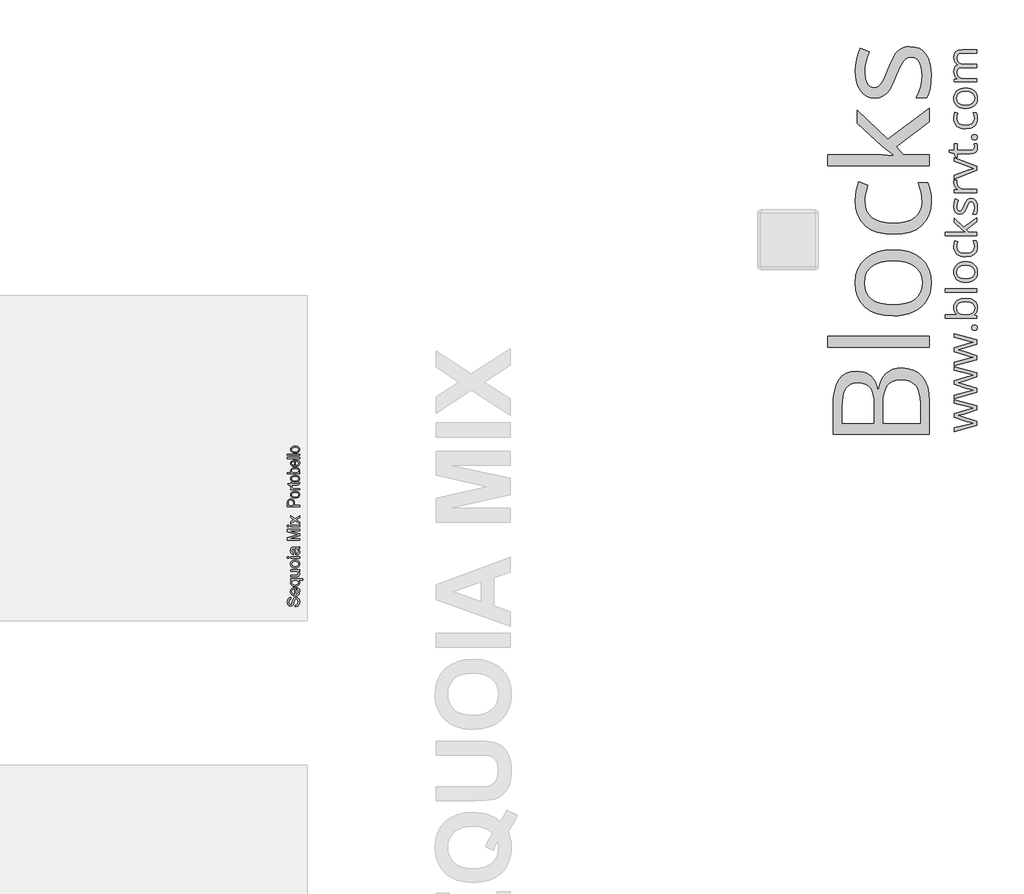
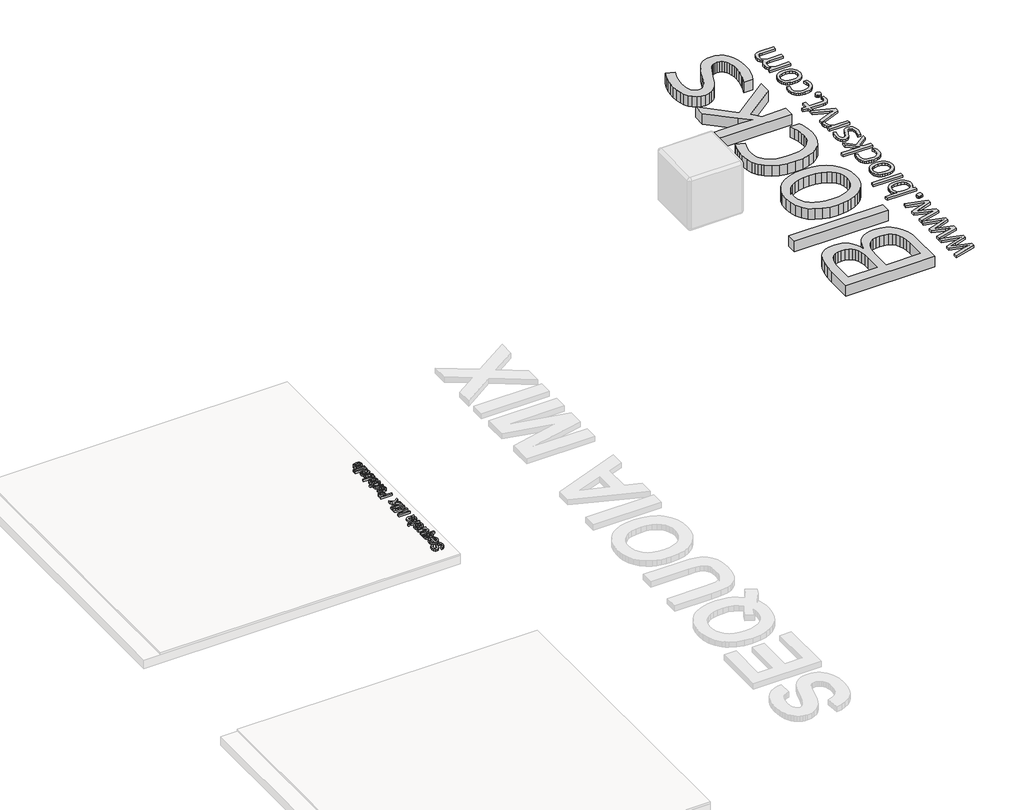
# One storey, part 10 of 10: 4 proxies.
"""IFC4 building model written with IfcOpenShell, lengths in millimetres."""

from ifc_helpers import new_model, si_unit, frame, origin, origin_with_axes, place, context, project, spatial, polyline, outline, extrude, element, save

model = new_model("IFC4")

# Units and contexts
model_context = context("Model", 3, world=origin())
ifc_project = project(units=[si_unit("LENGTHUNIT", "METRE", prefix="MILLI")], contexts=[model_context])

# Site, building, storey
site = spatial("IfcSite", under=ifc_project)
building = spatial("IfcBuilding", under=site)
storey = spatial("IfcBuildingStorey", under=building, Name="PORTOBELLO - SHOWROOM", Elevation=0.0)

# Proxies
placement = place(None, origin())
element("IfcBuildingElementProxy", 1, Name="10mm Arial", ObjectType="10mm Arial", at=placement, inside=storey, context=model_context, shape_type="SweptSolid", body=[
    extrude(outline(polyline([(154143.8720418, 14390.544295), (154143.8720418, 14403.1013338), (154156.4413433, 14407.1480357), (154164.3875944, 14417.0317986), (154167.4164895, 14432.090435), (154165.1233584, 14445.2115595), (154158.8203135, 14453.6851081), (154150.3958158, 14456.4687485), (154142.5599293, 14454.3840839), (154136.8577584, 14445.8492216), (154132.0630297, 14427.5654864), (154125.8703495, 14407.8837997), (154116.5261468, 14397.2029591), (154104.0426844, 14393.6835547), (154089.8301767, 14398.036825), (154079.799261, 14410.7532793), (154076.3779584, 14429.3681082), (154079.9586765, 14449.233736), (154090.4801016, 14462.4774878), (154106.2009255, 14467.4561574), (154106.2009255, 14454.8991187), (154098.7083955, 14452.5937248), (154093.3005302, 14447.7867334), (154088.9349972, 14429.8586175), (154093.2514793, 14411.8814507), (154103.6748024, 14406.2405935), (154112.381343, 14410.2382445), (154119.3956264, 14430.7415343), (154125.6986712, 14452.9616068), (154135.8767398, 14465.1139754), (154150.0769848, 14469.0257873), (154165.0988329, 14464.5253642), (154176.0617164, 14451.575918), (154179.9735282, 14432.5809443), (154175.755148, 14410.1524053), (154163.0509565, 14395.9644231), (154143.8720418, 14390.544295)])), frame((0.0, 0.0, 17.0), z_axis=(0.0, 0.0, 1.0), x_axis=(1.0, 0.0, 0.0)), (0.0, 0.0, 1.0), 20.0),
    extrude(outline(polyline([(154156.4290806, 14537.9423477), (154157.9987104, 14550.2541318), (154167.275468, 14545.8180881), (154174.2100437, 14538.7394254), (154178.5326571, 14529.1775592), (154179.9735282, 14517.2919051), (154177.4872591, 14502.5582312), (154170.0284516, 14491.2213343), (154158.0814839, 14483.9924531), (154142.1307337, 14481.5828261), (154125.6434889, 14484.0169786), (154113.3133107, 14491.3194362), (154105.624577, 14502.5030489), (154103.0616658, 14516.5806665), (154105.6184457, 14530.2198915), (154113.2887853, 14541.1183956), (154125.594438, 14548.2645034), (154142.0571573, 14550.6465393), (154145.4416716, 14550.5729629), (154145.4416716, 14494.1398648), (154154.8410566, 14496.3134343), (154161.7511068, 14501.3626147), (154166.0001438, 14508.6497439), (154167.4164895, 14517.5371597), (154164.7922646, 14529.8489438), (154156.4290806, 14537.9423477)]), holes=[polyline([(154132.8846329, 14494.1398648), (154132.8846329, 14538.0895005), (154121.5048165, 14533.0617799), (154117.0902325, 14525.7409282), (154115.6187046, 14516.5316156), (154120.3153314, 14501.0683091), (154125.8059701, 14496.2030697), (154132.8846329, 14494.1398648)])]), frame((0.0, 0.0, 17.0), z_axis=(0.0, 0.0, 1.0), x_axis=(1.0, 0.0, 0.0)), (0.0, 0.0, 1.0), 20.0),
    extrude(outline(polyline([(154206.6572356, 14608.7228436), (154168.3484572, 14608.7228436), (154176.6625903, 14600.752067), (154179.9735282, 14589.86276), (154177.3585004, 14577.9249892), (154169.5134169, 14567.7653148), (154157.1127279, 14560.8123451), (154140.830884, 14558.4946885), (154120.9407308, 14562.1735085), (154107.5988771, 14572.8420863), (154103.0616658, 14588.1705028), (154106.5810702, 14599.8446248), (154117.1392835, 14608.7228436), (154104.6312956, 14608.7228436), (154104.6312956, 14621.2798824), (154206.6572356, 14621.2798824), (154206.6572356, 14608.7228436)]), holes=[polyline([(154141.517597, 14571.0517273), (154152.8483625, 14572.4650073), (154160.9417664, 14576.7048473), (154165.7978087, 14582.9189873), (154167.4164895, 14590.2551674), (154165.8775165, 14597.2847792), (154161.2605974, 14603.2659273), (154153.4982873, 14607.3586145), (154142.5231411, 14608.7228436), (154130.7907712, 14607.2850381), (154122.3754705, 14602.9716217), (154117.3078961, 14596.7206935), (154115.6187046, 14589.4703525), (154117.1914001, 14582.3549016), (154121.9094867, 14576.4105417), (154129.9569053, 14572.3914309), (154141.517597, 14571.0517273)])]), frame((0.0, 0.0, 17.0), z_axis=(0.0, 0.0, 1.0), x_axis=(1.0, 0.0, 0.0)), (0.0, 0.0, 1.0), 20.0),
    extrude(outline(polyline([(154178.4038984, 14687.2043359), (154165.7242323, 14687.2043359), (154176.4112043, 14677.3696239), (154179.9735282, 14664.542805), (154177.4719307, 14652.733793), (154171.1934113, 14644.5913381), (154161.9473105, 14640.8512045), (154150.2731885, 14640.1154405), (154104.6312956, 14640.1154405), (154104.6312956, 14652.6724793), (154144.3625511, 14652.6724793), (154157.1648445, 14653.4327687), (154164.6819, 14658.3991757), (154167.4164895, 14667.7556411), (154164.6205863, 14678.240278), (154157.005429, 14685.1687222), (154143.0136505, 14687.2043359), (154104.6312956, 14687.2043359), (154104.6312956, 14699.7613747), (154178.4038984, 14699.7613747), (154178.4038984, 14687.2043359)])), frame((0.0, 0.0, 17.0), z_axis=(0.0, 0.0, 1.0), x_axis=(1.0, 0.0, 0.0)), (0.0, 0.0, 1.0), 20.0),
    extrude(outline(polyline([(154141.517597, 14713.8880433), (154123.7305026, 14716.6042387), (154111.2286461, 14724.7528249), (154105.1034109, 14734.8205288), (154103.0616658, 14746.8747955), (154105.5479349, 14760.0664307), (154113.0067424, 14770.6031842), (154124.849477, 14777.5101687), (154140.4875274, 14779.8124968), (154162.8302273, 14775.7412694), (154175.4731052, 14763.8832064), (154179.9735282, 14746.8747955), (154177.4964561, 14733.5237448), (154170.0652398, 14722.999254), (154157.9741849, 14716.165846), (154141.517597, 14713.8880433)]), holes=[polyline([(154141.4930716, 14726.4450821), (154152.8575595, 14727.8982159), (154160.9540291, 14732.2576176), (154165.8008744, 14738.8181798), (154167.4164895, 14746.8747955), (154165.7916773, 14754.894623), (154160.9172409, 14761.4429225), (154152.7134724, 14765.8023242), (154141.1006641, 14767.2554581), (154130.0672699, 14765.7931271), (154122.0811649, 14761.4061343), (154117.2343197, 14754.8486378), (154115.6187046, 14746.8747955), (154117.2281883, 14738.8181798), (154122.0566395, 14732.2576176), (154130.134715, 14727.8982159), (154141.4930716, 14726.4450821)])]), frame((0.0, 0.0, 17.0), z_axis=(0.0, 0.0, 1.0), x_axis=(1.0, 0.0, 0.0)), (0.0, 0.0, 1.0), 20.0),
    extrude(outline(polyline([(154090.504627, 14793.9391654), (154077.9475883, 14793.9391654), (154077.9475883, 14806.4962042), (154090.504627, 14806.4962042), (154090.504627, 14793.9391654)])), frame((0.0, 0.0, 17.0), z_axis=(0.0, 0.0, 1.0), x_axis=(1.0, 0.0, 0.0)), (0.0, 0.0, 1.0), 20.0),
    extrude(outline(polyline([(154178.4038984, 14793.9391654), (154104.6312956, 14793.9391654), (154104.6312956, 14806.4962042), (154178.4038984, 14806.4962042), (154178.4038984, 14793.9391654)])), frame((0.0, 0.0, 17.0), z_axis=(0.0, 0.0, 1.0), x_axis=(1.0, 0.0, 0.0)), (0.0, 0.0, 1.0), 20.0),
    extrude(outline(polyline([(154168.9861193, 14872.4206577), (154177.4964561, 14860.2437637), (154179.9735282, 14846.7915454), (154178.4836062, 14836.2977115), (154174.0138399, 14828.5568612), (154167.2264171, 14823.7835923), (154158.7835253, 14822.1925027), (154148.8507115, 14824.5959984), (154141.6402244, 14830.911306), (154137.519946, 14839.7036856), (154135.6314851, 14850.5684672), (154131.315003, 14872.3470813), (154128.5190999, 14872.4206577), (154119.2484736, 14868.962567), (154115.6187046, 14855.081153), (154118.034463, 14842.3769615), (154126.6061135, 14836.3191713), (154125.0364836, 14823.7621325), (154112.7737505, 14829.1945233), (154105.5877888, 14840.1328813), (154103.0616658, 14856.6998338), (154105.2934832, 14871.9178857), (154110.8975523, 14880.5140616), (154119.4201518, 14884.3645598), (154130.4075608, 14884.9776965), (154146.0302828, 14884.9776965), (154167.8456851, 14885.6153586), (154178.4038984, 14888.1169562), (154178.4038984, 14875.5599174), (154168.9861193, 14872.4206577)]), holes=[polyline([(154143.8720418, 14872.4206577), (154147.72254, 14852.1626225), (154149.7581537, 14841.3591546), (154153.0690917, 14836.4663241), (154157.9006085, 14834.7495414), (154164.6941627, 14838.4896751), (154167.4164895, 14849.4648212), (154164.4121199, 14862.1690128), (154157.1403191, 14870.3605186), (154147.4282344, 14872.3470813), (154143.8720418, 14872.4206577)])]), frame((0.0, 0.0, 17.0), z_axis=(0.0, 0.0, 1.0), x_axis=(1.0, 0.0, 0.0)), (0.0, 0.0, 1.0), 20.0),
    extrude(outline(polyline([(154178.4038984, 14943.0540008), (154077.9475883, 14943.0540008), (154077.9475883, 14964.6609367), (154148.7526096, 14985.2132775), (154163.5414658, 14989.3580813), (154147.5263363, 14993.8462416), (154077.9475883, 15014.0552259), (154077.9475883, 15035.6621617), (154178.4038984, 15035.6621617), (154178.4038984, 15023.105123), (154090.504627, 15023.105123), (154178.4038984, 14997.8684181), (154178.4038984, 14980.8477445), (154090.504627, 14955.6110396), (154178.4038984, 14955.6110396), (154178.4038984, 14943.0540008)])), frame((0.0, 0.0, 17.0), z_axis=(0.0, 0.0, 1.0), x_axis=(1.0, 0.0, 0.0)), (0.0, 0.0, 1.0), 20.0),
    extrude(outline(polyline([(154090.504627, 15056.0673497), (154077.9475883, 15056.0673497), (154077.9475883, 15068.6243885), (154090.504627, 15068.6243885), (154090.504627, 15056.0673497)])), frame((0.0, 0.0, 17.0), z_axis=(0.0, 0.0, 1.0), x_axis=(1.0, 0.0, 0.0)), (0.0, 0.0, 1.0), 20.0),
    extrude(outline(polyline([(154178.4038984, 15056.0673497), (154104.6312956, 15056.0673497), (154104.6312956, 15068.6243885), (154178.4038984, 15068.6243885), (154178.4038984, 15056.0673497)])), frame((0.0, 0.0, 17.0), z_axis=(0.0, 0.0, 1.0), x_axis=(1.0, 0.0, 0.0)), (0.0, 0.0, 1.0), 20.0),
    extrude(outline(polyline([(154178.4038984, 15079.6117974), (154141.3213933, 15106.4426576), (154104.6312956, 15081.1814273), (154104.6312956, 15096.2891145), (154122.2896314, 15108.4782713), (154130.62829, 15114.1681795), (154123.8102103, 15119.0977982), (154104.6312956, 15132.9792122), (154104.6312956, 15148.0868995), (154141.3213933, 15121.5503449), (154178.4038984, 15147.1058808), (154178.4038984, 15131.9981935), (154156.1102495, 15116.6207261), (154152.0390221, 15113.8002975), (154178.4038984, 15094.7194847), (154178.4038984, 15079.6117974)])), frame((0.0, 0.0, 17.0), z_axis=(0.0, 0.0, 1.0), x_axis=(1.0, 0.0, 0.0)), (0.0, 0.0, 1.0), 20.0),
])
element("IfcBuildingElementProxy", 2, Name="10mm Arial Narrow", ObjectType="10mm Arial Narrow", at=placement, inside=storey, context=model_context, shape_type="SweptSolid", body=[
    extrude(outline(polyline([(154178.4038984, 15222.5670842), (154077.6852946, 15222.5670842), (154077.6852946, 15253.8639688), (154079.5636154, 15270.1596704), (154089.0440586, 15281.6326565), (154106.0631674, 15285.9223349), (154118.1389929, 15284.1360265), (154127.7653867, 15278.7771013), (154134.0666451, 15269.0333125), (154136.1670646, 15254.0924133), (154136.1670646, 15232.3140458), (154178.4038984, 15232.3140458), (154178.4038984, 15222.5670842)]), holes=[polyline([(154124.7956093, 15232.3140458), (154124.7956093, 15255.2854007), (154120.2647951, 15271.1495961), (154106.5962043, 15276.1753733), (154096.4304279, 15273.7005588), (154090.6304781, 15267.7229299), (154089.0567499, 15255.0569563), (154089.0567499, 15232.3140458), (154124.7956093, 15232.3140458)])]), frame((0.0, 0.0, 17.0), z_axis=(0.0, 0.0, 1.0), x_axis=(1.0, 0.0, 0.0)), (0.0, 0.0, 1.0), 20.0),
    extrude(outline(polyline([(154141.8527922, 15294.0448029), (154125.2620167, 15295.9992718), (154113.3099318, 15301.8626784), (154106.0853773, 15310.7212452), (154103.6771924, 15321.6611943), (154106.0853773, 15332.4742299), (154113.3099318, 15341.3581793), (154125.0716463, 15347.2977341), (154141.0913108, 15349.2775857), (154158.2531974, 15347.3326353), (154170.3956526, 15341.4977842), (154177.6202071, 15332.648736), (154180.028392, 15321.6611943), (154177.6138615, 15310.8005661), (154170.3702699, 15301.9261352), (154158.4118394, 15296.015136), (154141.8527922, 15294.0448029)]), holes=[polyline([(154141.8274095, 15303.7917646), (154154.3791609, 15305.0958015), (154163.250419, 15309.007912), (154168.5236775, 15314.8491088), (154170.2814304, 15321.9404041), (154168.5078133, 15328.6604773), (154163.1869622, 15334.3525506), (154154.2998399, 15338.2361057), (154141.8274095, 15339.530624), (154129.3137322, 15338.2265871), (154120.4551654, 15334.3144766), (154115.1819069, 15328.4732798), (154113.424154, 15321.3819845), (154115.1914254, 15314.6143187), (154120.4932395, 15308.9317639), (154129.3613247, 15305.0767644), (154141.8274095, 15303.7917646)])]), frame((0.0, 0.0, 17.0), z_axis=(0.0, 0.0, 1.0), x_axis=(1.0, 0.0, 0.0)), (0.0, 0.0, 1.0), 20.0),
    extrude(outline(polyline([(154170.2814304, 15420.7553044), (154180.028392, 15422.3797981), (154180.028392, 15415.0188114), (154177.9089355, 15406.7440471), (154172.1089857, 15402.4289859), (154157.4631605, 15401.2613811), (154115.0486477, 15401.2613811), (154115.0486477, 15393.1389131), (154111.7996604, 15393.1389131), (154116.6731413, 15391.5144195), (154115.0486477, 15383.9503711), (154117.3711659, 15377.8712114), (154123.8564489, 15374.0003478), (154139.2637555, 15372.0204962), (154178.4038984, 15372.0204962), (154178.4038984, 15362.2735345), (154105.301686, 15362.2735345), (154105.301686, 15372.0204962), (154114.9978822, 15372.0204962), (154105.9108711, 15378.2646435), (154103.6771924, 15384.6610871), (154105.301686, 15393.1389131), (154105.301686, 15401.2613811), (154089.0567499, 15401.2613811), (154080.9342819, 15411.0083428), (154105.301686, 15411.0083428), (154105.301686, 15420.7553044), (154115.0486477, 15420.7553044), (154115.0486477, 15411.0083428), (154159.6968392, 15411.0083428), (154167.6923937, 15411.871355), (154170.2814304, 15416.4910087), (154170.2814304, 15420.7553044)])), frame((0.0, 0.0, 17.0), z_axis=(0.0, 0.0, 1.0), x_axis=(1.0, 0.0, 0.0)), (0.0, 0.0, 1.0), 20.0),
    extrude(outline(polyline([(154141.8527922, 15427.2532789), (154125.2620167, 15429.2077478), (154113.3099318, 15435.0711544), (154106.0853773, 15443.9297211), (154103.6771924, 15454.8696702), (154106.0853773, 15465.6827058), (154113.3099318, 15474.5666552), (154125.0716463, 15480.50621), (154141.0913108, 15482.4860616), (154158.2531974, 15480.5411112), (154170.3956526, 15474.7062602), (154177.6202071, 15465.857212), (154180.028392, 15454.8696702), (154177.6138615, 15444.0090421), (154170.3702699, 15435.1346112), (154158.4118394, 15429.2236119), (154141.8527922, 15427.2532789)]), holes=[polyline([(154141.8274095, 15437.0002405), (154154.3791609, 15438.3042774), (154163.250419, 15442.216388), (154168.5236775, 15448.0575847), (154170.2814304, 15455.1488801), (154168.5078133, 15461.8689532), (154163.1869622, 15467.5610266), (154154.2998399, 15471.4445816), (154141.8274095, 15472.7390999), (154129.3137322, 15471.4350631), (154120.4551654, 15467.5229525), (154115.1819069, 15461.6817557), (154113.424154, 15454.5904604), (154115.1914254, 15447.8227946), (154120.4932395, 15442.1402398), (154129.3613247, 15438.2852404), (154141.8274095, 15437.0002405)])]), frame((0.0, 0.0, 17.0), z_axis=(0.0, 0.0, 1.0), x_axis=(1.0, 0.0, 0.0)), (0.0, 0.0, 1.0), 20.0),
    extrude(outline(polyline([(154178.4038984, 15505.2289721), (154178.4038984, 15495.4820105), (154077.6852946, 15495.4820105), (154077.6852946, 15505.2289721), (154113.0941788, 15505.2289721), (154106.012402, 15512.6280328), (154103.6771924, 15521.8292662), (154107.8780313, 15534.7109928), (154120.6074617, 15543.9883743), (154141.2943725, 15547.4658059), (154157.748716, 15545.5335469), (154169.9514551, 15539.7367699), (154177.5091578, 15531.3636476), (154180.028392, 15521.7023526), (154177.4139726, 15512.3615144), (154169.6468625, 15505.2289721), (154178.4038984, 15505.2289721)]), holes=[polyline([(154141.2943725, 15505.2289721), (154158.5419258, 15507.3103545), (154167.2735789, 15513.1991439), (154170.2814304, 15521.6515872), (154168.4919491, 15527.5943148), (154163.1235054, 15532.8326721), (154141.7004959, 15537.7188443), (154120.2647951, 15533.0103511), (154115.1343143, 15527.7656481), (154113.424154, 15521.4485255), (154115.2136353, 15515.4708967), (154120.582079, 15510.1786011), (154141.2943725, 15505.2289721)])]), frame((0.0, 0.0, 17.0), z_axis=(0.0, 0.0, 1.0), x_axis=(1.0, 0.0, 0.0)), (0.0, 0.0, 1.0), 20.0),
    extrude(outline(polyline([(154155.6609879, 15599.4496014), (154157.2854815, 15609.1965631), (154167.1720481, 15605.4970327), (154174.291899, 15599.6780458), (154178.5942687, 15591.9743926), (154180.028392, 15582.6208629), (154177.6138615, 15571.0273089), (154170.3702699, 15561.8831867), (154158.5641356, 15555.943632), (154142.4619773, 15553.9637804), (154125.7950536, 15555.9531505), (154113.6145244, 15561.9212608), (154106.1615254, 15570.9352966), (154103.6771924, 15582.0624433), (154106.0758587, 15592.7453924), (154113.2718578, 15601.4929098), (154125.0113624, 15607.3277609), (154141.0405454, 15609.2727112), (154144.2895326, 15609.1965631), (154144.2895326, 15563.710742), (154163.7326905, 15569.7137536), (154168.6442454, 15575.6437898), (154170.2814304, 15582.7477765), (154166.6263197, 15592.9262443), (154155.6609879, 15599.4496014)]), holes=[polyline([(154134.542571, 15564.3706926), (154134.542571, 15599.4496014), (154120.2774865, 15595.1853057), (154115.1374871, 15589.3599732), (154113.424154, 15582.1385914), (154119.1352644, 15569.9295066), (154134.542571, 15564.3706926)])]), frame((0.0, 0.0, 17.0), z_axis=(0.0, 0.0, 1.0), x_axis=(1.0, 0.0, 0.0)), (0.0, 0.0, 1.0), 20.0),
    extrude(outline(polyline([(154178.4038984, 15622.192512), (154077.6852946, 15622.192512), (154077.6852946, 15631.9394736), (154178.4038984, 15631.9394736), (154178.4038984, 15622.192512)])), frame((0.0, 0.0, 17.0), z_axis=(0.0, 0.0, 1.0), x_axis=(1.0, 0.0, 0.0)), (0.0, 0.0, 1.0), 20.0),
    extrude(outline(polyline([(154178.4038984, 15648.1844097), (154077.6852946, 15648.1844097), (154077.6852946, 15657.9313713), (154178.4038984, 15657.9313713), (154178.4038984, 15648.1844097)])), frame((0.0, 0.0, 17.0), z_axis=(0.0, 0.0, 1.0), x_axis=(1.0, 0.0, 0.0)), (0.0, 0.0, 1.0), 20.0),
    extrude(outline(polyline([(154141.8527922, 15669.3028266), (154125.2620167, 15671.2572955), (154113.3099318, 15677.1207021), (154106.0853773, 15685.9792688), (154103.6771924, 15696.919218), (154106.0853773, 15707.7322535), (154113.3099318, 15716.616203), (154125.0716463, 15722.5557577), (154141.0913108, 15724.5356093), (154158.2531974, 15722.590659), (154170.3956526, 15716.7558079), (154177.6202072, 15707.9067597), (154180.028392, 15696.919218), (154177.6138615, 15686.0585898), (154170.3702699, 15677.1841589), (154158.4118394, 15671.2731597), (154141.8527922, 15669.3028266)]), holes=[polyline([(154141.8274095, 15679.0497883), (154154.3791609, 15680.3538251), (154163.250419, 15684.2659357), (154168.5236775, 15690.1071325), (154170.2814304, 15697.1984278), (154168.5078133, 15703.918501), (154163.1869622, 15709.6105743), (154154.2998399, 15713.4941293), (154141.8274095, 15714.7886477), (154129.3137322, 15713.4846108), (154120.4551654, 15709.5725002), (154115.1819069, 15703.7313035), (154113.424154, 15696.6400081), (154115.1914254, 15689.8723424), (154120.4932395, 15684.1897876), (154129.3613247, 15680.3347881), (154141.8274095, 15679.0497883)])]), frame((0.0, 0.0, 17.0), z_axis=(0.0, 0.0, 1.0), x_axis=(1.0, 0.0, 0.0)), (0.0, 0.0, 1.0), 20.0),
])
element("IfcBuildingElementProxy", 3, Name="25mm OpenSans", ObjectType="25mm OpenSans", at=placement, inside=storey, context=model_context, shape_type="SweptSolid", body=[
    extrude(outline(polyline([(159806.5607559, 16026.4236266), (159696.7491126, 15991.9435202), (159651.0254932, 15979.7255694), (159697.1238964, 15966.3083106), (159806.5607559, 15930.7788096), (159806.5607559, 15897.872795), (159619.4687001, 15846.5274191), (159619.4687001, 15876.3602069), (159726.8067706, 15904.0942055), (159776.5030979, 15915.0378915), (159751.3176289, 15922.45861), (159726.8067706, 15929.8043718), (159619.4687001, 15964.2844783), (159619.4687001, 15995.1666606), (159726.8817274, 16028.8222427), (159776.2032709, 16041.8647178), (159757.2392124, 16046.961777), (159619.4687001, 16082.7161482), (159619.4687001, 16112.249109), (159806.5607559, 16060.2291223), (159806.5607559, 16026.4236266)])), origin_with_axes(), (0.0, 0.0, 1.0), 20.0),
    extrude(outline(polyline([(159806.5607559, 16299.8658621), (159696.7491126, 16265.3857556), (159651.0254932, 16253.1678049), (159697.1238964, 16239.750546), (159806.5607559, 16204.2210451), (159806.5607559, 16171.3150304), (159619.4687001, 16119.9696545), (159619.4687001, 16149.8024423), (159726.8067706, 16177.5364409), (159776.5030979, 16188.4801269), (159751.3176289, 16195.9008455), (159726.8067706, 16203.2466073), (159619.4687001, 16237.7267137), (159619.4687001, 16268.608896), (159726.8817274, 16302.2644782), (159776.2032709, 16315.3069532), (159757.2392124, 16320.4040124), (159619.4687001, 16356.1583837), (159619.4687001, 16385.6913444), (159806.5607559, 16333.6713577), (159806.5607559, 16299.8658621)])), origin_with_axes(), (0.0, 0.0, 1.0), 20.0),
    extrude(outline(polyline([(159806.5607559, 16573.3080975), (159696.7491126, 16538.827991), (159651.0254932, 16526.6100403), (159697.1238964, 16513.1927815), (159806.5607559, 16477.6632805), (159806.5607559, 16444.7572659), (159619.4687001, 16393.41189), (159619.4687001, 16423.2446777), (159726.8067706, 16450.9786764), (159776.5030979, 16461.9223623), (159751.3176289, 16469.3430809), (159726.8067706, 16476.6888427), (159619.4687001, 16511.1689491), (159619.4687001, 16542.0511314), (159726.8817274, 16575.7067136), (159776.2032709, 16588.7491886), (159757.2392124, 16593.8462478), (159619.4687001, 16629.6006191), (159619.4687001, 16659.1335798), (159806.5607559, 16607.1135931), (159806.5607559, 16573.3080975)])), origin_with_axes(), (0.0, 0.0, 1.0), 20.0),
    extrude(outline(polyline([(159787.4467839, 16688.2917568), (159777.0371648, 16689.5941304), (159769.4946415, 16693.5012511), (159764.91291, 16699.8444664), (159763.3856661, 16708.4551234), (159764.91291, 16717.3187594), (159769.4946415, 16723.9711713), (159777.0371648, 16728.1312711), (159787.4467839, 16729.517971), (159797.6502719, 16728.1031623), (159805.174056, 16723.8587361), (159809.8120051, 16717.1782155), (159811.3579881, 16708.4551234), (159805.77371, 16694.0259484), (159798.3998394, 16689.7253047), (159787.4467839, 16688.2917568)])), origin_with_axes(), (0.0, 0.0, 1.0), 20.0),
    extrude(outline(polyline([(159614.6714679, 16876.6580774), (159616.2713261, 16894.2424632), (159621.0709007, 16909.7421143), (159629.0701917, 16923.1570307), (159640.2691991, 16934.4872124), (159654.3915199, 16943.48905), (159671.160751, 16949.918934), (159712.6399443, 16955.0628412), (159754.2596814, 16949.872086), (159771.1483749, 16943.3836421), (159785.4229515, 16934.2998206), (159796.7695301, 16922.9157637), (159804.874229, 16909.5266136), (159809.7370483, 16894.1323705), (159811.3579881, 16876.7330342), (159809.6433524, 16859.0900884), (159804.4994452, 16843.0399736), (159795.7950923, 16829.0324304), (159783.3991192, 16817.5171992), (159783.3991192, 16815.4184101), (159806.5607559, 16809.4218698), (159806.5607559, 16789.1085897), (159542.7129849, 16789.1085897), (159542.7129849, 16817.4422424), (159605.3018738, 16817.4422424), (159643.0800774, 16816.0930209), (159630.6513107, 16828.648277), (159621.7736203, 16842.2529277), (159616.447006, 16858.2561945), (159614.6714679, 16876.6580774)]), holes=[polyline([(159638.6576289, 16872.6853695), (159642.8926855, 16847.4155741), (159655.5978551, 16830.3722823), (159678.3284905, 16820.6747524), (159712.6399443, 16817.4422424), (159747.0919419, 16820.7684483), (159770.0942955, 16830.7470661), (159783.0524442, 16848.0527065), (159787.3718271, 16873.3599803), (159782.527747, 16896.4372906), (159767.9955064, 16912.749754), (159744.3934988, 16922.447284), (159712.3401172, 16925.6797939), (159679.8932127, 16922.447284), (159656.9095983, 16912.749754), (159643.2206213, 16896.2686379), (159638.6576289, 16872.6853695)])]), origin_with_axes(), (0.0, 0.0, 1.0), 20.0),
    extrude(outline(polyline([(159806.5607559, 17032.3432537), (159806.5607559, 17004.009601), (159542.7129849, 17004.009601), (159542.7129849, 17032.3432537), (159806.5607559, 17032.3432537)])), origin_with_axes(), (0.0, 0.0, 1.0), 20.0),
    extrude(outline(polyline([(159712.8648145, 17257.2884698), (159734.7920072, 17255.8478947), (159754.1753551, 17251.5261694), (159771.0148582, 17244.3232939), (159785.3105164, 17234.2392682), (159796.7062853, 17221.6207673), (159804.8461202, 17206.8144662), (159809.7300211, 17189.8203648), (159811.3579881, 17170.6384632), (159808.3690876, 17146.9427596), (159799.402386, 17126.0766734), (159784.8514063, 17108.8459898), (159765.1096714, 17096.0564938), (159740.879901, 17088.1298172), (159712.8648145, 17085.4875916), (159690.9469914, 17086.9164547), (159671.5917523, 17091.203044), (159654.7990972, 17098.3473596), (159640.5690261, 17108.3494013), (159629.2388444, 17120.8906031), (159621.1458575, 17135.6523987), (159616.2900653, 17152.634788), (159614.6714679, 17171.8377712), (159616.3275437, 17190.4340732), (159621.295771, 17207.0205972), (159629.5761498, 17221.5973433), (159641.1686801, 17234.1643115), (159655.5861431, 17244.2811307), (159672.3413199, 17251.5074302), (159691.4342103, 17255.8432099), (159712.8648145, 17257.2884698)]), holes=[polyline([(159712.6399443, 17114.9455956), (159744.7963914, 17118.5247806), (159768.2578551, 17129.2623355), (159782.5933341, 17146.93339), (159787.3718271, 17171.313074), (159782.6120733, 17195.7114971), (159768.3328118, 17213.4387692), (159744.8900873, 17224.2325417), (159712.6399443, 17227.8304658), (159680.717737, 17224.2325417), (159657.5092523, 17213.4387692), (159643.3705348, 17195.6178012), (159638.6576289, 17170.9382902), (159643.3049476, 17146.6054542), (159657.2469037, 17129.0749436), (159680.3898012, 17118.4779326), (159712.6399443, 17114.9455956)])]), origin_with_axes(), (0.0, 0.0, 1.0), 20.0),
    extrude(outline(polyline([(159811.3579881, 17382.6911178), (159809.7721843, 17363.3475907), (159805.0147729, 17346.3183533), (159797.0857539, 17331.6034057), (159785.9851272, 17319.2027479), (159771.9846112, 17309.364674), (159755.3559239, 17302.3374784), (159714.2140361, 17296.7157219), (159691.7668309, 17298.1422427), (159672.0227537, 17302.4218048), (159654.9818043, 17309.5544083), (159640.6439829, 17319.5400533), (159629.2810076, 17332.163239), (159621.1645967, 17347.2084648), (159616.2947501, 17364.6757307), (159614.6714679, 17384.5650366), (159617.4448678, 17411.8118164), (159623.9661053, 17433.1370126), (159647.427569, 17424.3670725), (159641.1686801, 17403.6415303), (159638.6576289, 17383.8154691), (159643.3471108, 17358.5972065), (159657.4155564, 17340.5841617), (159680.8629657, 17329.7763349), (159713.6893388, 17326.1737259), (159745.1524359, 17329.6873237), (159768.3328118, 17340.2281171), (159782.6120733, 17357.6649318), (159787.3718271, 17381.8665935), (159784.8420367, 17405.8340153), (159777.2526655, 17430.3636128), (159801.9134372, 17430.3636128), (159808.9968504, 17408.9634598), (159811.3579881, 17382.6911178)])), origin_with_axes(), (0.0, 0.0, 1.0), 20.0),
    extrude(outline(polyline([(159712.714901, 17501.947312), (159684.8309888, 17524.8091217), (159619.4687001, 17584.7745242), (159619.4687001, 17618.1302794), (159699.2226854, 17542.8736992), (159806.5607559, 17623.3772521), (159806.5607559, 17589.2719294), (159720.2105763, 17523.6847704), (159738.2001971, 17502.6968796), (159806.5607559, 17502.6968796), (159806.5607559, 17474.6630539), (159542.7129849, 17474.6630539), (159542.7129849, 17502.6968796), (159683.7066375, 17502.6968796), (159712.714901, 17501.947312)])), origin_with_axes(), (0.0, 0.0, 1.0), 20.0),
    extrude(outline(polyline([(159756.1148611, 17783.6347903), (159779.6044336, 17778.7344925), (159797.0037699, 17764.0335993), (159807.7694336, 17740.4878093), (159811.3579881, 17709.0528209), (159808.3971964, 17675.7532833), (159799.5148211, 17650.6615102), (159772.9801305, 17650.6615102), (159783.5115543, 17679.8196872), (159787.3718271, 17709.8023885), (159785.5916042, 17729.6190801), (159780.2509356, 17744.2450165), (159771.2561252, 17753.2679357), (159758.5134772, 17756.2755754), (159748.2256628, 17753.8863289), (159739.5494186, 17746.7185894), (159720.9601439, 17709.5025614), (159703.7200906, 17672.0991416), (159687.0422131, 17655.5711776), (159664.6676223, 17650.136813), (159643.94208, 17654.82161), (159628.0887267, 17668.8760012), (159618.0257826, 17691.1006785), (159614.6714679, 17720.2963339), (159617.7821732, 17750.3352527), (159627.1142889, 17779.7370391), (159650.2759257, 17769.5429207), (159641.5622031, 17742.4835328), (159638.6576289, 17718.122588), (159640.2598295, 17700.30162), (159645.0664313, 17687.465276), (159652.7026505, 17679.7072521), (159662.7937034, 17677.1212441), (159675.7987001, 17680.9815169), (159685.9928185, 17693.4618163), (159700.0472097, 17726.5177444), (159712.3775956, 17754.598418), (159724.7829383, 17771.8291017), (159738.8373295, 17780.6833681), (159756.1148611, 17783.6347903)])), origin_with_axes(), (0.0, 0.0, 1.0), 20.0),
    extrude(outline(polyline([(159614.6714679, 17916.0833731), (159616.5453867, 17938.7203125), (159641.2061585, 17934.7476046), (159638.6576289, 17914.0595407), (159643.3517956, 17892.7249749), (159657.4342956, 17874.7447237), (159678.525252, 17862.5174034), (159704.2447879, 17858.4416299), (159806.5607559, 17858.4416299), (159806.5607559, 17830.1079772), (159619.4687001, 17830.1079772), (159619.4687001, 17853.4944842), (159653.0493255, 17856.7176246), (159636.7274925, 17869.7038821), (159624.6407161, 17883.4771855), (159617.16378, 17899.0494509), (159614.6714679, 17916.0833731)])), origin_with_axes(), (0.0, 0.0, 1.0), 20.0),
    extrude(outline(polyline([(159806.5607559, 18015.700898), (159619.4687001, 17943.742415), (159619.4687001, 17974.5496405), (159730.4046947, 18015.401071), (159780.9255464, 18031.5917296), (159743.4471698, 18045.0089885), (159619.4687001, 18090.4327809), (159619.4687001, 18121.2400064), (159806.5607559, 18049.2815234), (159806.5607559, 18015.700898)])), origin_with_axes(), (0.0, 0.0, 1.0), 20.0),
    extrude(outline(polyline([(159787.3718271, 18212.6122885), (159786.2474758, 18227.3038121), (159783.9238165, 18238.547325), (159806.1110154, 18238.547325), (159809.8588531, 18224.8302392), (159811.3579881, 18208.5646238), (159807.7975424, 18184.5597236), (159797.116205, 18167.4133663), (159779.3139762, 18157.125552), (159754.3908558, 18153.6962805), (159643.4548611, 18153.6962805), (159643.4548611, 18126.5619359), (159629.4379483, 18126.5619359), (159617.2949543, 18153.546367), (159576.2936103, 18165.6144042), (159576.2936103, 18182.1048899), (159619.4687001, 18182.1048899), (159619.4687001, 18237.1981035), (159643.4548611, 18237.1981035), (159643.4548611, 18182.1048899), (159752.6668504, 18182.1048899), (159767.498918, 18184.1380919), (159778.4144951, 18190.2376976), (159785.1324941, 18199.8977492), (159787.3718271, 18212.6122885)])), origin_with_axes(), (0.0, 0.0, 1.0), 20.0),
    extrude(outline(polyline([(159787.4467839, 18271.3783829), (159777.0371648, 18272.6807565), (159769.4946415, 18276.5878773), (159764.91291, 18282.9310925), (159763.3856661, 18291.5417495), (159764.91291, 18300.4053856), (159769.4946415, 18307.0577974), (159777.0371648, 18311.2178972), (159787.4467839, 18312.6045971), (159797.6502719, 18311.1897884), (159805.174056, 18306.9453623), (159809.8120051, 18300.2648416), (159811.3579881, 18291.5417495), (159805.77371, 18277.1125745), (159798.3998394, 18272.8119308), (159787.4467839, 18271.3783829)])), origin_with_axes(), (0.0, 0.0, 1.0), 20.0),
    extrude(outline(polyline([(159811.3579881, 18447.6766663), (159809.7721843, 18428.3331392), (159805.0147729, 18411.3039018), (159797.0857539, 18396.5889542), (159785.9851272, 18384.1882964), (159771.9846112, 18374.3502225), (159755.3559239, 18367.3230269), (159714.2140361, 18361.7012704), (159691.7668309, 18363.1277911), (159672.0227537, 18367.4073533), (159654.9818043, 18374.5399568), (159640.6439829, 18384.5256018), (159629.2810076, 18397.1487875), (159621.1645967, 18412.1940133), (159616.2947501, 18429.6612791), (159614.6714679, 18449.5505851), (159617.4448678, 18476.7973649), (159623.9661053, 18498.1225611), (159647.427569, 18489.352621), (159641.1686801, 18468.6270788), (159638.6576289, 18448.8010176), (159643.3471108, 18423.5827549), (159657.4155564, 18405.5697102), (159680.8629657, 18394.7618834), (159713.6893388, 18391.1592744), (159745.1524359, 18394.6728722), (159768.3328118, 18405.2136656), (159782.6120733, 18422.6504803), (159787.3718271, 18446.852142), (159784.8420367, 18470.8195638), (159777.2526655, 18495.3491613), (159801.9134372, 18495.3491613), (159808.9968504, 18473.9490082), (159811.3579881, 18447.6766663)])), origin_with_axes(), (0.0, 0.0, 1.0), 20.0),
    extrude(outline(polyline([(159712.8648145, 18701.2553621), (159734.7920072, 18699.814787), (159754.1753551, 18695.4930617), (159771.0148582, 18688.2901862), (159785.3105164, 18678.2061605), (159796.7062853, 18665.5876596), (159804.8461202, 18650.7813585), (159809.7300211, 18633.7872571), (159811.3579881, 18614.6053555), (159808.3690876, 18590.9096519), (159799.402386, 18570.0435658), (159784.8514063, 18552.8128821), (159765.1096714, 18540.0233861), (159740.879901, 18532.0967095), (159712.8648145, 18529.4544839), (159690.9469914, 18530.883347), (159671.5917523, 18535.1699364), (159654.7990972, 18542.3142519), (159640.5690261, 18552.3162936), (159629.2388444, 18564.8574954), (159621.1458575, 18579.619291), (159616.2900653, 18596.6016804), (159614.6714679, 18615.8046635), (159616.3275437, 18634.4009655), (159621.295771, 18650.9874895), (159629.5761498, 18665.5642356), (159641.1686801, 18678.1312038), (159655.5861431, 18688.2480231), (159672.3413199, 18695.4743225), (159691.4342103, 18699.8101022), (159712.8648145, 18701.2553621)]), holes=[polyline([(159712.6399443, 18558.9124879), (159744.7963914, 18562.4916729), (159768.2578551, 18573.2292278), (159782.5933341, 18590.9002823), (159787.3718271, 18615.2799663), (159782.6120733, 18639.6783894), (159768.3328118, 18657.4056615), (159744.8900873, 18668.199434), (159712.6399443, 18671.7973581), (159680.717737, 18668.199434), (159657.5092523, 18657.4056615), (159643.3705348, 18639.5846935), (159638.6576289, 18614.9051825), (159643.3049476, 18590.5723465), (159657.2469037, 18573.0418359), (159680.3898012, 18562.4448249), (159712.6399443, 18558.9124879)])]), origin_with_axes(), (0.0, 0.0, 1.0), 20.0),
    extrude(outline(polyline([(159806.5607559, 18990.2886022), (159683.7815943, 18990.2886022), (159664.0398594, 18987.8899861), (159649.9386203, 18980.6941378), (159641.4778768, 18968.4387087), (159638.6576289, 18950.86135), (159642.4897929, 18927.7934093), (159653.9862849, 18911.6589682), (159673.446932, 18902.1581997), (159701.171561, 18898.9912769), (159806.5607559, 18898.9912769), (159806.5607559, 18870.5826674), (159683.7815943, 18870.5826674), (159664.0398594, 18868.1840513), (159649.9386203, 18860.988203), (159641.4778768, 18848.6952955), (159638.6576289, 18831.0055018), (159642.6865544, 18807.8251259), (159654.7733308, 18791.8031199), (159676.0235704, 18782.4710041), (159707.542885, 18779.3602989), (159806.5607559, 18779.3602989), (159806.5607559, 18751.0266462), (159619.4687001, 18751.0266462), (159619.4687001, 18774.1133262), (159643.4548611, 18778.6856881), (159631.3774543, 18789.769918), (159622.2795784, 18802.7842842), (159616.5734955, 18818.3097017), (159614.6714679, 18835.5778637), (159616.6390827, 18855.6756432), (159622.541927, 18871.9693674), (159632.3800008, 18884.4590364), (159646.1533042, 18893.1446501), (159633.1295684, 18904.7723165), (159623.141581, 18918.8173381), (159616.7889962, 18935.8606298), (159614.6714679, 18955.133885), (159618.7753501, 18982.9896884), (159631.0869969, 19002.8438583), (159652.4309323, 19014.7338733), (159683.6316808, 19018.6972116), (159806.5607559, 19018.6972116), (159806.5607559, 18990.2886022)])), origin_with_axes(), (0.0, 0.0, 1.0), 20.0),
])
element("IfcBuildingElementProxy", 4, Name="80mm OpenSans", ObjectType="80mm OpenSans", at=placement, inside=storey, context=model_context, shape_type="SweptSolid", body=[
    extrude(outline(polyline([(158612.2234872, 15822.4757369), (158612.2234872, 16047.4588575), (158615.1604663, 16121.2889554), (158623.9714039, 16184.1373051), (158638.6562997, 16236.0039066), (158659.2151539, 16276.8887599), (158686.1136767, 16307.8584916), (158719.8175784, 16329.9797286), (158760.3268589, 16343.2524708), (158807.6415182, 16347.6767182), (158841.3003511, 16345.2054493), (158871.8494414, 16337.7916425), (158899.288789, 16325.4352979), (158923.6183939, 16308.1364155), (158944.4025918, 16286.105316), (158961.2057182, 16259.5523201), (158974.027773, 16228.477428), (158982.8687564, 16192.8806395), (158988.1568212, 16192.8806395), (158998.0719427, 16235.4142573), (159012.0732961, 16272.2767261), (159030.1608813, 16303.4680458), (159052.3346985, 16328.9882165), (159078.5947476, 16348.8372381), (159108.9410285, 16363.0151107), (159143.3735414, 16371.5218343), (159181.8922861, 16374.3574088), (159233.1279253, 16369.8430239), (159278.4295145, 16356.2998693), (159317.7970538, 16333.727945), (159351.230543, 16302.127251), (159377.8886992, 16262.4292077), (159396.9302394, 16215.5652357), (159408.3551635, 16161.535335), (159412.1634715, 16100.3395055), (159412.1634715, 15822.4757369), (158612.2234872, 15822.4757369)]), holes=[polyline([(158950.6596344, 15915.4976041), (158950.6596344, 16067.4092838), (158948.7291903, 16112.891148), (158942.937858, 16151.5075416), (158933.2856374, 16183.2584648), (158919.7725286, 16208.1439175), (158901.6924548, 16226.9150452), (158878.3393391, 16240.3229936), (158849.7131815, 16248.3677626), (158815.813982, 16251.0493523), (158784.6113951, 16248.059793), (158758.0659107, 16239.0911149), (158736.1775288, 16224.1433181), (158718.9462495, 16203.2164025), (158705.9063624, 16175.7845664), (158696.5921574, 16141.3220077), (158691.0036344, 16099.8287265), (158689.1407934, 16051.3047228), (158689.1407934, 15915.4976041), (158950.6596344, 15915.4976041)]), polyline([(159027.5769406, 15915.4976041), (159335.2461653, 15915.4976041), (159335.2461653, 16081.110179), (159332.834988, 16126.2164703), (159325.6014562, 16165.3887117), (159313.5455699, 16198.6269031), (159296.6673289, 16225.9310445), (159274.6662752, 16247.2260214), (159247.2419506, 16262.4367191), (159214.3943549, 16271.5631378), (159176.1234882, 16274.6052773), (159140.4290507, 16271.4955347), (159109.7823116, 16262.1663067), (159084.1832706, 16246.6175935), (159063.6319279, 16224.8493949), (159047.8578709, 16196.7415277), (159036.5906874, 16162.1738087), (159029.8303773, 16121.1462377), (159027.5769406, 16073.6588149), (159027.5769406, 15915.4976041)])]), origin_with_axes(), (0.0, 0.0, 1.0), 100.0),
    extrude(outline(polyline([(159412.1634715, 16636.1166164), (159412.1634715, 16545.2580485), (158566.0731035, 16545.2580485), (158566.0731035, 16636.1166164), (159412.1634715, 16636.1166164)])), origin_with_axes(), (0.0, 0.0, 1.0), 100.0),
    extrude(outline(polyline([(159111.7052442, 17357.4567285), (159182.0199809, 17352.8371832), (159244.1772766, 17338.9785475), (159298.1771315, 17315.8808213), (159344.0195456, 17283.5440046), (159380.5627775, 17243.0797928), (159406.6650859, 17195.5998814), (159422.326471, 17141.1042705), (159427.5469327, 17079.5929599), (159425.1507784, 17040.4657872), (159417.9623153, 17003.6070742), (159405.9815435, 16969.0168208), (159389.2084629, 16936.695027), (159367.9585548, 16907.287678), (159342.5473002, 16881.440759), (159312.9746992, 16859.15427), (159279.2407518, 16840.428211), (159241.908817, 16825.6005974), (159201.5422542, 16815.0094449), (159158.1410632, 16808.6547534), (159111.7052442, 16806.5365229), (159041.4205534, 16811.1185109), (158979.3533951, 16824.8644748), (158925.5037693, 16847.7744146), (158879.871676, 16879.8483304), (158843.5387649, 16920.0646641), (158817.5866855, 16967.4018578), (158802.0154379, 17021.8599115), (158796.825022, 17083.4388252), (158802.1356212, 17143.0722719), (158818.0674187, 17196.2608895), (158844.6204145, 17243.0046783), (158881.7946087, 17283.303638), (158928.0276184, 17315.7456151), (158981.7570609, 17338.9184559), (159042.9829362, 17352.8221603), (159111.7052442, 17357.4567285)]), holes=[polyline([(159110.9841445, 16901.0005896), (159166.0280917, 16903.8699657), (159214.1014081, 16912.4780939), (159255.2040936, 16926.8249742), (159289.3361482, 16946.9106067), (159316.152045, 16972.5547164), (159335.306257, 17003.5770284), (159346.7987842, 17039.9775426), (159350.6296266, 17081.7562591), (159346.8138071, 17123.5499985), (159335.3663486, 17159.9955815), (159316.2872512, 17191.093008), (159289.5765148, 17216.8422781), (159255.5195747, 17237.033071), (159214.4018663, 17251.4550659), (159166.2233896, 17260.1082628), (159110.9841445, 17262.9926618), (159056.3082586, 17260.1082628), (159008.6180264, 17251.4550659), (158967.9134481, 17237.033071), (158934.1945235, 17216.8422781), (158907.7466881, 17191.0178935), (158888.855377, 17159.6951233), (158877.5205904, 17122.8739675), (158873.7423282, 17080.5544262), (158877.4680102, 17038.813267), (158888.6450563, 17002.5254246), (158907.2734664, 16971.690899), (158933.3532405, 16946.3096903), (158966.8092641, 16926.4869587), (159007.5664226, 16912.3278648), (159055.6247161, 16903.8324084), (159110.9841445, 16901.0005896)])]), origin_with_axes(), (0.0, 0.0, 1.0), 100.0),
    extrude(outline(polyline([(159427.5469327, 17759.5900199), (159422.4616772, 17697.5604189), (159407.2059108, 17642.952136), (159381.7796333, 17595.7651715), (159346.1828448, 17555.9995251), (159301.2868742, 17524.4514112), (159247.9630503, 17501.9170442), (159186.2113731, 17488.3964239), (159116.0318427, 17483.8895505), (159044.0495629, 17488.464027), (158980.7355029, 17502.1874566), (158926.0896629, 17525.0598391), (158880.1120426, 17557.0811747), (158860.5916472, 17576.3499364), (158843.6739711, 17597.5604094), (158829.3590144, 17620.7125936), (158817.6467772, 17645.8064892), (158802.0304608, 17701.8194142), (158796.825022, 17765.5991844), (158799.0484129, 17809.3158565), (158805.7185856, 17852.9724369), (158815.3933405, 17891.8817774), (158826.6304782, 17921.3567295), (158901.8652183, 17893.2338394), (158881.7946087, 17826.7724795), (158875.7553983, 17792.9108373), (158873.7423282, 17763.1955186), (158877.5018118, 17719.873198), (158888.7802625, 17682.3271867), (158907.5776803, 17650.5574849), (158933.8940653, 17624.5640925), (158967.7294174, 17604.3470096), (159009.0837367, 17589.906236), (159057.9570231, 17581.2417719), (159114.3492766, 17578.3536172), (159168.1162764, 17581.1704131), (159215.2431493, 17589.6208007), (159255.7298955, 17603.7047801), (159289.5765148, 17623.4223513), (159316.2872512, 17648.6683538), (159335.3663486, 17679.3376274), (159346.8138071, 17715.4301719), (159350.6296266, 17756.9459875), (159348.6015335, 17795.1492511), (159342.5172544, 17833.803202), (159332.3767893, 17872.9078403), (159318.180138, 17912.4631659), (159397.2607434, 17912.4631659), (159410.5109513, 17880.1038148), (159419.9753854, 17843.8385068), (159425.6540459, 17803.6672418), (159427.5469327, 17759.5900199)])), origin_with_axes(), (0.0, 0.0, 1.0), 100.0),
    extrude(outline(polyline([(159111.2245111, 18144.1765508), (159021.8081426, 18215.325059), (158812.2084833, 18407.6183245), (158812.2084833, 18514.5814534), (159067.9585263, 18273.2534053), (159412.1634715, 18531.4071141), (159412.1634715, 18422.0403194), (159135.2611692, 18211.7195603), (159192.9491489, 18144.4169174), (159412.1634715, 18144.4169174), (159412.1634715, 18054.5198158), (158566.0731035, 18054.5198158), (158566.0731035, 18144.4169174), (159018.2026439, 18144.4169174), (159111.2245111, 18139.8499523), (159111.2245111, 18144.1765508)])), origin_with_axes(), (0.0, 0.0, 1.0), 100.0),
    extrude(outline(polyline([(159250.3967619, 19045.3108661), (159290.5004238, 19041.3823748), (159325.7216395, 19029.5969008), (159356.060409, 19009.9544442), (159381.5167323, 18982.4550049), (159401.654945, 18947.8647515), (159416.0393826, 18906.9498524), (159424.6700452, 18859.7103076), (159427.5469327, 18806.1461172), (159425.1733128, 18749.4646726), (159418.0524528, 18699.3632632), (159406.1843528, 18655.841889), (159389.5690128, 18618.9005499), (159304.4792428, 18618.9005499), (159323.6184319, 18664.0293757), (159338.2507476, 18712.4031503), (159347.5349068, 18761.437933), (159350.6296266, 18808.549783), (159349.20245, 18842.4039137), (159344.9209202, 18872.0966981), (159337.7850373, 18897.6281359), (159327.7948013, 18918.9982273), (159314.8750975, 18935.8764683), (159298.9508115, 18947.9323546), (159280.0219431, 18955.1658865), (159258.0884926, 18957.5770637), (159240.9473507, 18955.6616425), (159225.0981792, 18949.9153789), (159210.5409781, 18940.3382729), (159197.2757474, 18926.9303245), (159169.7537737, 18881.771453), (159137.6648351, 18807.5883167), (159107.9795622, 18735.4182505), (159082.3805212, 18687.6453923), (159057.2321676, 18656.6080575), (159028.8989568, 18634.644561), (158995.9987809, 18621.5746281), (158957.1495321, 18617.2179839), (158921.9658737, 18620.9737117), (158890.6881722, 18632.2408952), (158863.3164277, 18651.0195344), (158839.8506402, 18677.3096293), (158821.0269322, 18710.1497136), (158807.5814266, 18748.5783208), (158799.5141232, 18792.5954511), (158796.825022, 18842.2011044), (158799.3188253, 18890.6199478), (158806.8002352, 18938.5280121), (158819.2692516, 18985.9252975), (158836.7258746, 19032.8118038), (158910.9991484, 19000.1219487), (158894.6992896, 18955.6541311), (158883.0565333, 18913.3496127), (158876.0708795, 18873.2083935), (158873.7423282, 18835.2304736), (158878.8801639, 18778.0833187), (158885.3024585, 18755.503883), (158894.293671, 18736.9205416), (158905.553343, 18722.4084092), (158918.7810165, 18712.0426004), (158933.9766913, 18705.8231151), (158951.1403676, 18703.7499533), (158973.8249637, 18706.8446731), (158992.8439695, 18716.1288323), (159009.6095386, 18732.3235307), (159025.5338246, 18756.1498682), (159044.5528304, 18796.4713623), (159070.6025587, 18862.1515307), (159090.3426643, 18911.5243289), (159110.1428614, 18952.1988615), (159130.0031503, 18984.1751283), (159149.9235307, 19007.4531295), (159171.1659274, 19024.0158892), (159194.9922648, 19035.8464319), (159221.402543, 19042.9447576), (159250.3967619, 19045.3108661)])), origin_with_axes(), (0.0, 0.0, 1.0), 100.0),
])

save(model, "model.ifc")
